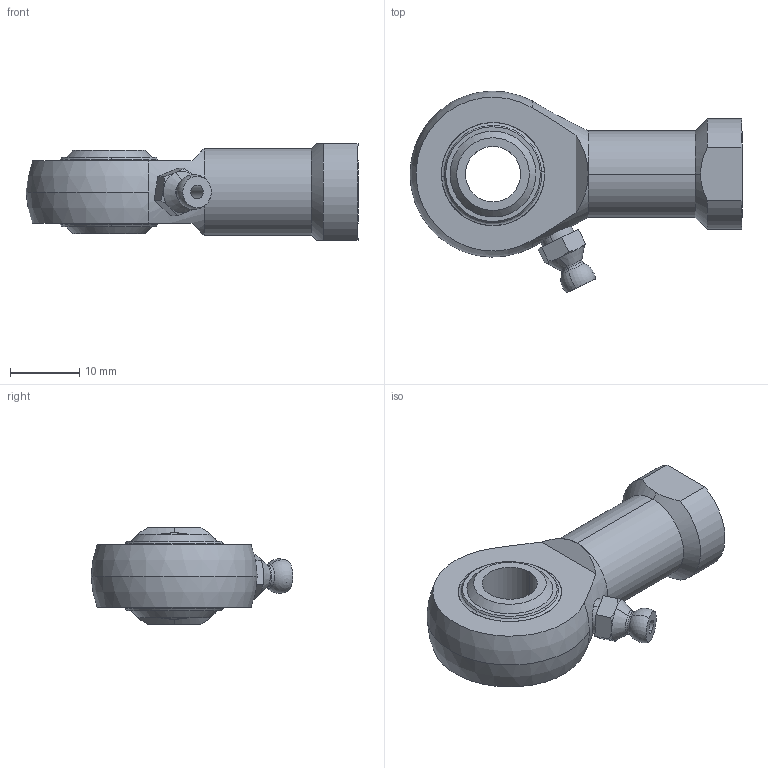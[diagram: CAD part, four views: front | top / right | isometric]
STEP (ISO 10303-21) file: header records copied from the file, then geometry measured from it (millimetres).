
FILE_DESCRIPTION (( 'STEP AP203' ), '1' );
FILE_NAME ('65760.W0208.step', '2014-02-11T16:38:30', ( 'User' ), ( '' ), 'SwSTEP 2.0', 'SolidWorks 2009', '' );
FILE_SCHEMA (( 'CONFIG_CONTROL_DESIGN' ));
Length unit declared in the file: millimetre
Products named in the file (5): Part3_M5; Part4_65760.W0208; Part2_65760.W0208; Part1_65760.W0208; 65760.W0208
Assembly tree (5 placements, depth 2):
  65760.W0208
    Part3_M5
    Part1_65760.W0208
    Part4_65760.W0208  x2
    Part2_65760.W0208
Bounding box: 48 x 29.15 x 14 mm (x, y, z)
Volume: 6162.6 mm3; surface area: 5638.8 mm2
Topology: 46 solids, 46 shells, 183 faces, 524 edges, 353 vertices
Faces by surface type: sphere 98, plane 27, torus 22, cylinder 20, cone 16
Entity records: 4803 total; most frequent: CARTESIAN_POINT 897, DIRECTION 814, ORIENTED_EDGE 558, AXIS2_PLACEMENT_3D 385, EDGE_CURVE 279, VERTEX_POINT 208, CIRCLE 207, EDGE_LOOP 189
